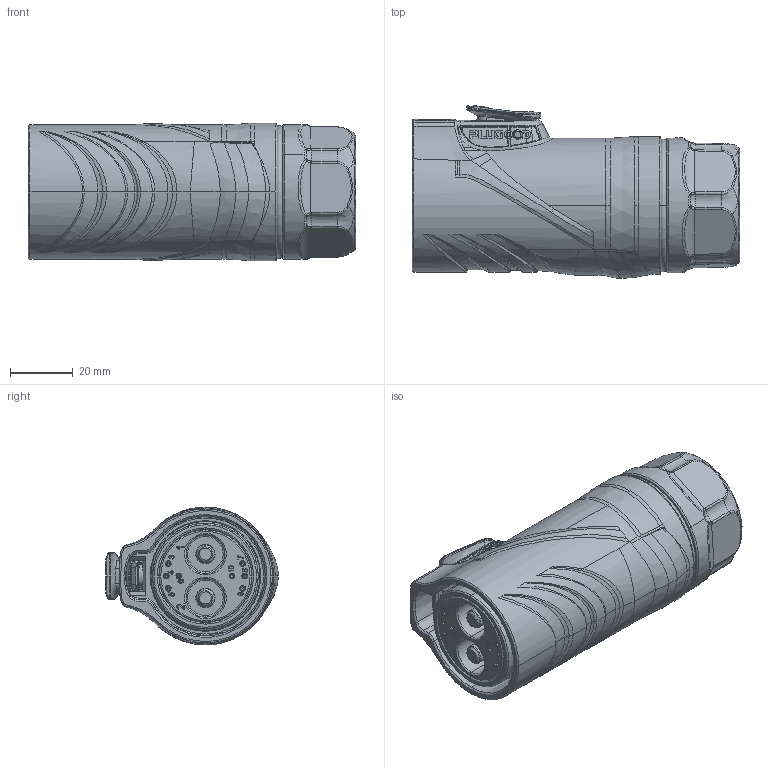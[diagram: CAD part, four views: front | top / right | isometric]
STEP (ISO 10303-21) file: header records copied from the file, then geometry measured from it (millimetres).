
FILE_DESCRIPTION (( 'STEP AP203' ), '1' );
FILE_NAME ('PLG36 2+8芯直头插头正装半金属100A.STEP', '2026-05-19T01:12:52', ( '微软用户' ), ( '微软中国' ), 'SwSTEP 2.0', 'SolidWorks 2024', '' );
FILE_SCHEMA (( 'CONFIG_CONTROL_DESIGN' ));
Products named in the file (1): PLG36 2+8芯直头插头正装半金属100A
Bounding box: 104.44 x 55.09 x 44 mm (x, y, z)
Volume: 144840.4 mm3; surface area: 31276.1 mm2
Topology: 2 solids, 11 shells, 1628 faces, 4662 edges, 3088 vertices
Faces by surface type: bspline 631, plane 420, cylinder 320, torus 127, cone 102, sphere 28
Entity records: 98935 total; most frequent: CARTESIAN_POINT 62391, ORIENTED_EDGE 9252, DIRECTION 5346, EDGE_CURVE 4626, VERTEX_POINT 3088, B_SPLINE_CURVE_WITH_KNOTS 2090, AXIS2_PLACEMENT_3D 1998, EDGE_LOOP 1718
